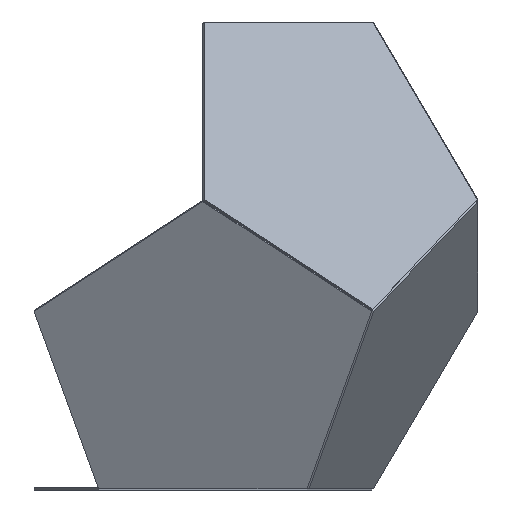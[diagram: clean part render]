
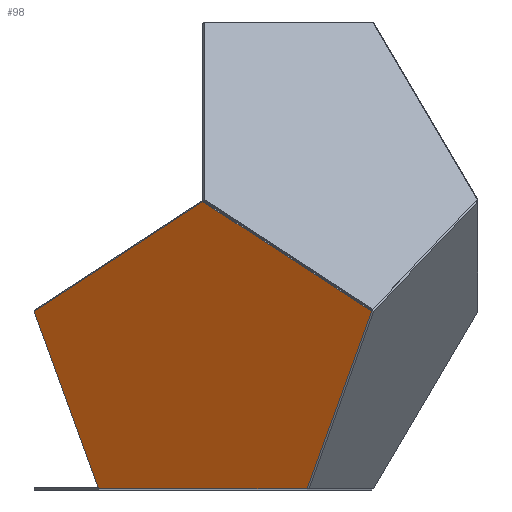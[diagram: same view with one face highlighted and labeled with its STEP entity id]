
A CAD part, front view. The second image highlights one B-rep face of the part: STEP entity #98.
In plain terms, the highlighted planar face has unit normal (0, -0.894, -0.447) as drawn and (0, 0, -1) by its records, which use the part's own axes.
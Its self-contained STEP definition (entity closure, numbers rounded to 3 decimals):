
#1=DIRECTION('',(-0.809,-0.588,0.));
#2=VECTOR('',#1,8.817);
#3=CARTESIAN_POINT('',(0.,7.5,0.));
#4=LINE('',#3,#2);
#5=DIRECTION('',(0.309,-0.951,0.));
#6=VECTOR('',#5,8.817);
#7=CARTESIAN_POINT('',(-7.133,2.318,0.));
#8=LINE('',#7,#6);
#9=DIRECTION('',(1.,0.,0.));
#10=VECTOR('',#9,8.817);
#11=CARTESIAN_POINT('',(-4.408,-6.068,0.));
#12=LINE('',#11,#10);
#13=DIRECTION('',(0.309,0.951,0.));
#14=VECTOR('',#13,8.817);
#15=CARTESIAN_POINT('',(4.408,-6.068,0.));
#16=LINE('',#15,#14);
#17=DIRECTION('',(-0.809,0.588,0.));
#18=VECTOR('',#17,8.817);
#19=CARTESIAN_POINT('',(7.133,2.318,0.));
#20=LINE('',#19,#18);
#61=CARTESIAN_POINT('',(0.,7.5,0.));
#62=CARTESIAN_POINT('',(-7.133,2.318,0.));
#63=VERTEX_POINT('',#61);
#64=VERTEX_POINT('',#62);
#65=CARTESIAN_POINT('',(-4.408,-6.068,0.));
#66=VERTEX_POINT('',#65);
#67=CARTESIAN_POINT('',(4.408,-6.068,0.));
#68=VERTEX_POINT('',#67);
#69=CARTESIAN_POINT('',(7.133,2.318,0.));
#70=VERTEX_POINT('',#69);
#81=CARTESIAN_POINT('',(0.,0.,0.));
#82=DIRECTION('',(0.,0.,1.));
#83=DIRECTION('',(1.,0.,0.));
#84=AXIS2_PLACEMENT_3D('',#81,#82,#83);
#85=PLANE('',#84);
#87=ORIENTED_EDGE('',*,*,#86,.T.);
#89=ORIENTED_EDGE('',*,*,#88,.T.);
#91=ORIENTED_EDGE('',*,*,#90,.T.);
#93=ORIENTED_EDGE('',*,*,#92,.T.);
#95=ORIENTED_EDGE('',*,*,#94,.T.);
#96=EDGE_LOOP('',(#87,#89,#91,#93,#95));
#97=FACE_OUTER_BOUND('',#96,.F.);
#98=ADVANCED_FACE('',(#97),#85,.F.);
#86=EDGE_CURVE('',#63,#64,#4,.T.);
#88=EDGE_CURVE('',#64,#66,#8,.T.);
#90=EDGE_CURVE('',#66,#68,#12,.T.);
#92=EDGE_CURVE('',#68,#70,#16,.T.);
#94=EDGE_CURVE('',#70,#63,#20,.T.);
